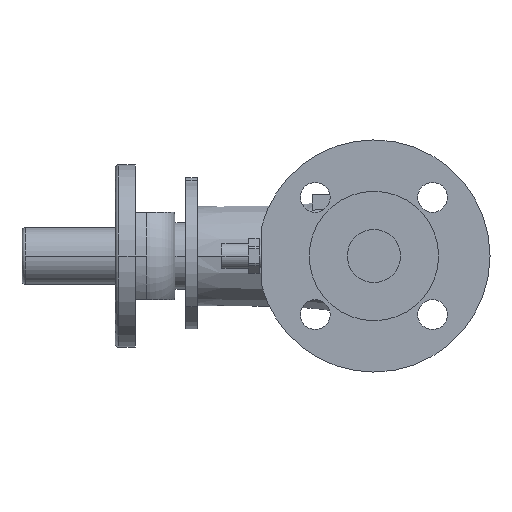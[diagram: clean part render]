
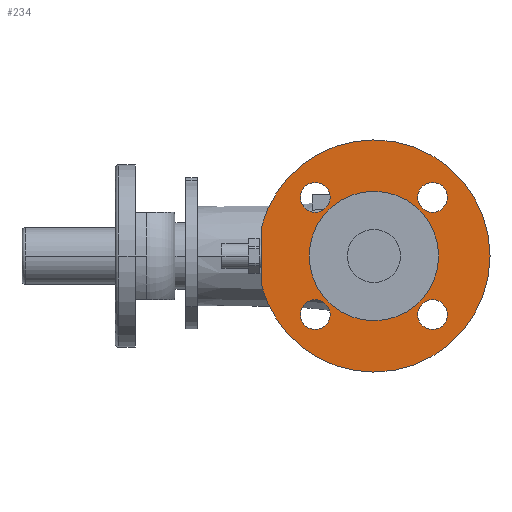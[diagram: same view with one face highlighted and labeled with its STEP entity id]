
A CAD part, left-side view. The second image highlights one B-rep face of the part: STEP entity #234.
In plain terms, the highlighted planar face has unit normal (-1, 0, 0).
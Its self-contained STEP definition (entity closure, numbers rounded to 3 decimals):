
#234 = ADVANCED_FACE( '', ( #592, #593, #594, #595, #596, #597 ), #598, .F. );
#592 = FACE_OUTER_BOUND( '', #963, .T. );
#593 = FACE_BOUND( '', #964, .T. );
#594 = FACE_BOUND( '', #965, .T. );
#595 = FACE_BOUND( '', #966, .T. );
#596 = FACE_BOUND( '', #967, .T. );
#597 = FACE_BOUND( '', #968, .T. );
#598 = PLANE( '', #969 );
#963 = EDGE_LOOP( '', ( #2302, #2303, #2304, #2305 ) );
#964 = EDGE_LOOP( '', ( #2306, #2307 ) );
#965 = EDGE_LOOP( '', ( #2308, #2309 ) );
#966 = EDGE_LOOP( '', ( #2310, #2311 ) );
#967 = EDGE_LOOP( '', ( #2312, #2313 ) );
#968 = EDGE_LOOP( '', ( #2314, #2315 ) );
#969 = AXIS2_PLACEMENT_3D( '', #2316, #2317, #2318 );
#2302 = ORIENTED_EDGE( '', *, *, #2782, .T. );
#2303 = ORIENTED_EDGE( '', *, *, #2802, .F. );
#2304 = ORIENTED_EDGE( '', *, *, #2378, .F. );
#2305 = ORIENTED_EDGE( '', *, *, #2375, .F. );
#2306 = ORIENTED_EDGE( '', *, *, #2803, .F. );
#2307 = ORIENTED_EDGE( '', *, *, #2394, .F. );
#2308 = ORIENTED_EDGE( '', *, *, #2804, .F. );
#2309 = ORIENTED_EDGE( '', *, *, #2390, .F. );
#2310 = ORIENTED_EDGE( '', *, *, #2805, .F. );
#2311 = ORIENTED_EDGE( '', *, *, #2386, .F. );
#2312 = ORIENTED_EDGE( '', *, *, #2806, .F. );
#2313 = ORIENTED_EDGE( '', *, *, #2382, .F. );
#2314 = ORIENTED_EDGE( '', *, *, #2807, .F. );
#2315 = ORIENTED_EDGE( '', *, *, #2369, .F. );
#2316 = CARTESIAN_POINT( '', ( 3., 0., 0. ) );
#2317 = DIRECTION( '', ( 1., 0., 0. ) );
#2318 = DIRECTION( '', ( 0., 0., -1. ) );
#2369 = EDGE_CURVE( '', #2809, #2812, #2813, .T. );
#2375 = EDGE_CURVE( '', #2822, #2817, #2824, .T. );
#2378 = EDGE_CURVE( '', #2817, #2826, #2829, .T. );
#2382 = EDGE_CURVE( '', #2835, #2831, #2837, .T. );
#2386 = EDGE_CURVE( '', #2843, #2839, #2845, .T. );
#2390 = EDGE_CURVE( '', #2851, #2847, #2853, .T. );
#2394 = EDGE_CURVE( '', #2859, #2855, #2861, .T. );
#2782 = EDGE_CURVE( '', #2822, #3507, #3510, .T. );
#2802 = EDGE_CURVE( '', #2826, #3507, #3536, .T. );
#2803 = EDGE_CURVE( '', #2855, #2859, #3537, .T. );
#2804 = EDGE_CURVE( '', #2847, #2851, #3538, .T. );
#2805 = EDGE_CURVE( '', #2839, #2843, #3539, .T. );
#2806 = EDGE_CURVE( '', #2831, #2835, #3540, .T. );
#2807 = EDGE_CURVE( '', #2812, #2809, #3541, .T. );
#2809 = VERTEX_POINT( '', #3543 );
#2812 = VERTEX_POINT( '', #3547 );
#2813 = CIRCLE( '', #3548, 39. );
#2817 = VERTEX_POINT( '', #3553 );
#2822 = VERTEX_POINT( '', #3559 );
#2824 = CIRCLE( '', #3562, 70. );
#2826 = VERTEX_POINT( '', #3564 );
#2829 = CIRCLE( '', #3568, 70. );
#2831 = VERTEX_POINT( '', #3570 );
#2835 = VERTEX_POINT( '', #3575 );
#2837 = CIRCLE( '', #3578, 9. );
#2839 = VERTEX_POINT( '', #3580 );
#2843 = VERTEX_POINT( '', #3585 );
#2845 = CIRCLE( '', #3588, 9. );
#2847 = VERTEX_POINT( '', #3590 );
#2851 = VERTEX_POINT( '', #3595 );
#2853 = CIRCLE( '', #3598, 9. );
#2855 = VERTEX_POINT( '', #3600 );
#2859 = VERTEX_POINT( '', #3605 );
#2861 = CIRCLE( '', #3608, 9. );
#3507 = VERTEX_POINT( '', #5422 );
#3510 = LINE( '', #5426, #5427 );
#3536 = CIRCLE( '', #5503, 70. );
#3537 = CIRCLE( '', #5504, 9. );
#3538 = CIRCLE( '', #5505, 9. );
#3539 = CIRCLE( '', #5506, 9. );
#3540 = CIRCLE( '', #5507, 9. );
#3541 = CIRCLE( '', #5508, 39. );
#3543 = CARTESIAN_POINT( '', ( 3., 39., 0. ) );
#3547 = CARTESIAN_POINT( '', ( 3., -39., 0. ) );
#3548 = AXIS2_PLACEMENT_3D( '', #5511, #5512, #5513 );
#3553 = CARTESIAN_POINT( '', ( 3., 0., 70. ) );
#3559 = CARTESIAN_POINT( '', ( 3., 67.947, 16.829 ) );
#3562 = AXIS2_PLACEMENT_3D( '', #5523, #5524, #5525 );
#3564 = CARTESIAN_POINT( '', ( 3., 0., -70. ) );
#3568 = AXIS2_PLACEMENT_3D( '', #5530, #5531, #5532 );
#3570 = CARTESIAN_POINT( '', ( 3., 35.355, -44.355 ) );
#3575 = CARTESIAN_POINT( '', ( 3., 35.355, -26.355 ) );
#3578 = AXIS2_PLACEMENT_3D( '', #5538, #5539, #5540 );
#3580 = CARTESIAN_POINT( '', ( 3., -35.355, -44.355 ) );
#3585 = CARTESIAN_POINT( '', ( 3., -35.355, -26.355 ) );
#3588 = AXIS2_PLACEMENT_3D( '', #5546, #5547, #5548 );
#3590 = CARTESIAN_POINT( '', ( 3., 35.355, 26.355 ) );
#3595 = CARTESIAN_POINT( '', ( 3., 35.355, 44.355 ) );
#3598 = AXIS2_PLACEMENT_3D( '', #5554, #5555, #5556 );
#3600 = CARTESIAN_POINT( '', ( 3., -35.355, 26.355 ) );
#3605 = CARTESIAN_POINT( '', ( 3., -35.355, 44.355 ) );
#3608 = AXIS2_PLACEMENT_3D( '', #5562, #5563, #5564 );
#5422 = CARTESIAN_POINT( '', ( 3., 67.947, -16.829 ) );
#5426 = CARTESIAN_POINT( '', ( 3., 67.947, -12.5 ) );
#5427 = VECTOR( '', #6295, 1. );
#5503 = AXIS2_PLACEMENT_3D( '', #6332, #6333, #6334 );
#5504 = AXIS2_PLACEMENT_3D( '', #6335, #6336, #6337 );
#5505 = AXIS2_PLACEMENT_3D( '', #6338, #6339, #6340 );
#5506 = AXIS2_PLACEMENT_3D( '', #6341, #6342, #6343 );
#5507 = AXIS2_PLACEMENT_3D( '', #6344, #6345, #6346 );
#5508 = AXIS2_PLACEMENT_3D( '', #6347, #6348, #6349 );
#5511 = CARTESIAN_POINT( '', ( 3., 0., 0. ) );
#5512 = DIRECTION( '', ( -1., 0., 0. ) );
#5513 = DIRECTION( '', ( 0., 1., 0. ) );
#5523 = CARTESIAN_POINT( '', ( 3., 0., 0. ) );
#5524 = DIRECTION( '', ( 1., 0., 0. ) );
#5525 = DIRECTION( '', ( 0., 0., -1. ) );
#5530 = CARTESIAN_POINT( '', ( 3., 0., 0. ) );
#5531 = DIRECTION( '', ( 1., 0., 0. ) );
#5532 = DIRECTION( '', ( 0., 0., -1. ) );
#5538 = CARTESIAN_POINT( '', ( 3., 35.355, -35.355 ) );
#5539 = DIRECTION( '', ( -1., 0., 0. ) );
#5540 = DIRECTION( '', ( 0., 0., -1. ) );
#5546 = CARTESIAN_POINT( '', ( 3., -35.355, -35.355 ) );
#5547 = DIRECTION( '', ( -1., 0., 0. ) );
#5548 = DIRECTION( '', ( 0., 0., -1. ) );
#5554 = CARTESIAN_POINT( '', ( 3., 35.355, 35.355 ) );
#5555 = DIRECTION( '', ( -1., 0., 0. ) );
#5556 = DIRECTION( '', ( 0., 0., -1. ) );
#5562 = CARTESIAN_POINT( '', ( 3., -35.355, 35.355 ) );
#5563 = DIRECTION( '', ( -1., 0., 0. ) );
#5564 = DIRECTION( '', ( 0., 0., -1. ) );
#6295 = DIRECTION( '', ( 0., 0., -1. ) );
#6332 = CARTESIAN_POINT( '', ( 3., 0., 0. ) );
#6333 = DIRECTION( '', ( 1., 0., 0. ) );
#6334 = DIRECTION( '', ( 0., 0., -1. ) );
#6335 = CARTESIAN_POINT( '', ( 3., -35.355, 35.355 ) );
#6336 = DIRECTION( '', ( -1., 0., 0. ) );
#6337 = DIRECTION( '', ( 0., 0., -1. ) );
#6338 = CARTESIAN_POINT( '', ( 3., 35.355, 35.355 ) );
#6339 = DIRECTION( '', ( -1., 0., 0. ) );
#6340 = DIRECTION( '', ( 0., 0., -1. ) );
#6341 = CARTESIAN_POINT( '', ( 3., -35.355, -35.355 ) );
#6342 = DIRECTION( '', ( -1., 0., 0. ) );
#6343 = DIRECTION( '', ( 0., 0., -1. ) );
#6344 = CARTESIAN_POINT( '', ( 3., 35.355, -35.355 ) );
#6345 = DIRECTION( '', ( -1., 0., 0. ) );
#6346 = DIRECTION( '', ( 0., 0., -1. ) );
#6347 = CARTESIAN_POINT( '', ( 3., 0., 0. ) );
#6348 = DIRECTION( '', ( -1., 0., 0. ) );
#6349 = DIRECTION( '', ( 0., 1., 0. ) );
